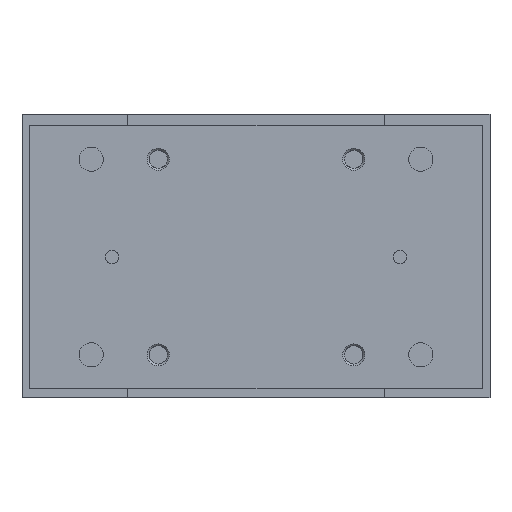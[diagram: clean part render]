
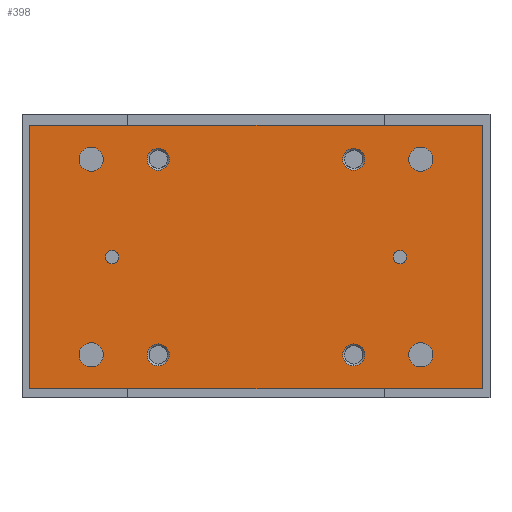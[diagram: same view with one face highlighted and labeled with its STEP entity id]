
A CAD part, left-side view. The second image highlights one B-rep face of the part: STEP entity #398.
In plain terms, the highlighted planar face has unit normal (-1, 0, 0).
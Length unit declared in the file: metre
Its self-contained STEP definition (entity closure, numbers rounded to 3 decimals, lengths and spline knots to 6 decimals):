
#398 = ADVANCED_FACE( '', ( #1066, #1067, #1068, #1069, #1070, #1071, #1072, #1073, #1074, #1075, #1076 ), #1077, .F. );
#1066 = FACE_BOUND( '', #2232, .T. );
#1067 = FACE_BOUND( '', #2233, .T. );
#1068 = FACE_BOUND( '', #2234, .T. );
#1069 = FACE_BOUND( '', #2235, .T. );
#1070 = FACE_BOUND( '', #2236, .T. );
#1071 = FACE_BOUND( '', #2237, .T. );
#1072 = FACE_BOUND( '', #2238, .T. );
#1073 = FACE_BOUND( '', #2239, .T. );
#1074 = FACE_BOUND( '', #2240, .T. );
#1075 = FACE_BOUND( '', #2241, .T. );
#1076 = FACE_OUTER_BOUND( '', #2242, .T. );
#1077 = PLANE( '', #2243 );
#2232 = EDGE_LOOP( '', ( #3510 ) );
#2233 = EDGE_LOOP( '', ( #3511 ) );
#2234 = EDGE_LOOP( '', ( #3512 ) );
#2235 = EDGE_LOOP( '', ( #3513 ) );
#2236 = EDGE_LOOP( '', ( #3514 ) );
#2237 = EDGE_LOOP( '', ( #3515 ) );
#2238 = EDGE_LOOP( '', ( #3516 ) );
#2239 = EDGE_LOOP( '', ( #3517 ) );
#2240 = EDGE_LOOP( '', ( #3518 ) );
#2241 = EDGE_LOOP( '', ( #3519 ) );
#2242 = EDGE_LOOP( '', ( #3520, #3521, #3522, #3523 ) );
#2243 = AXIS2_PLACEMENT_3D( '', #3524, #3525, #3526 );
#3510 = ORIENTED_EDGE( '', *, *, #5454, .T. );
#3511 = ORIENTED_EDGE( '', *, *, #5455, .F. );
#3512 = ORIENTED_EDGE( '', *, *, #5456, .F. );
#3513 = ORIENTED_EDGE( '', *, *, #5457, .T. );
#3514 = ORIENTED_EDGE( '', *, *, #5458, .F. );
#3515 = ORIENTED_EDGE( '', *, *, #5459, .T. );
#3516 = ORIENTED_EDGE( '', *, *, #5460, .T. );
#3517 = ORIENTED_EDGE( '', *, *, #5461, .F. );
#3518 = ORIENTED_EDGE( '', *, *, #5426, .F. );
#3519 = ORIENTED_EDGE( '', *, *, #5462, .T. );
#3520 = ORIENTED_EDGE( '', *, *, #5394, .T. );
#3521 = ORIENTED_EDGE( '', *, *, #5361, .T. );
#3522 = ORIENTED_EDGE( '', *, *, #5463, .T. );
#3523 = ORIENTED_EDGE( '', *, *, #5464, .T. );
#3524 = CARTESIAN_POINT( '', ( -0.1405, -0.103, -0.125 ) );
#3525 = DIRECTION( '', ( 1., 0., 0. ) );
#3526 = DIRECTION( '', ( 0., 0., -1. ) );
#5361 = EDGE_CURVE( '', #6137, #6135, #6138, .T. );
#5394 = EDGE_CURVE( '', #6192, #6137, #6193, .T. );
#5426 = EDGE_CURVE( '', #6245, #6245, #6246, .T. );
#5454 = EDGE_CURVE( '', #6293, #6293, #6294, .T. );
#5455 = EDGE_CURVE( '', #6295, #6295, #6296, .T. );
#5456 = EDGE_CURVE( '', #6297, #6297, #6298, .T. );
#5457 = EDGE_CURVE( '', #6299, #6299, #6300, .T. );
#5458 = EDGE_CURVE( '', #6301, #6301, #6302, .T. );
#5459 = EDGE_CURVE( '', #6303, #6303, #6304, .T. );
#5460 = EDGE_CURVE( '', #6305, #6305, #6306, .T. );
#5461 = EDGE_CURVE( '', #6307, #6307, #6308, .T. );
#5462 = EDGE_CURVE( '', #6309, #6309, #6310, .T. );
#5463 = EDGE_CURVE( '', #6135, #6311, #6312, .T. );
#5464 = EDGE_CURVE( '', #6311, #6192, #6313, .T. );
#6135 = VERTEX_POINT( '', #7241 );
#6137 = VERTEX_POINT( '', #7244 );
#6138 = LINE( '', #7245, #7246 );
#6192 = VERTEX_POINT( '', #7313 );
#6193 = LINE( '', #7314, #7315 );
#6245 = VERTEX_POINT( '', #7384 );
#6246 = CIRCLE( '', #7385, 0.0055 );
#6293 = VERTEX_POINT( '', #7447 );
#6294 = CIRCLE( '', #7448, 0.005 );
#6295 = VERTEX_POINT( '', #7449 );
#6296 = CIRCLE( '', #7450, 0.005 );
#6297 = VERTEX_POINT( '', #7451 );
#6298 = CIRCLE( '', #7452, 0.005 );
#6299 = VERTEX_POINT( '', #7453 );
#6300 = CIRCLE( '', #7454, 0.005 );
#6301 = VERTEX_POINT( '', #7455 );
#6302 = CIRCLE( '', #7456, 0.003 );
#6303 = VERTEX_POINT( '', #7457 );
#6304 = CIRCLE( '', #7458, 0.003 );
#6305 = VERTEX_POINT( '', #7459 );
#6306 = CIRCLE( '', #7460, 0.0055 );
#6307 = VERTEX_POINT( '', #7461 );
#6308 = CIRCLE( '', #7462, 0.0055 );
#6309 = VERTEX_POINT( '', #7463 );
#6310 = CIRCLE( '', #7464, 0.0055 );
#6311 = VERTEX_POINT( '', #7465 );
#6312 = LINE( '', #7466, #7467 );
#6313 = LINE( '', #7468, #7469 );
#7241 = CARTESIAN_POINT( '', ( -0.1405, 0.103, -0.005 ) );
#7244 = CARTESIAN_POINT( '', ( -0.1405, -0.103, -0.005 ) );
#7245 = CARTESIAN_POINT( '', ( -0.1405, -0.103, -0.005 ) );
#7246 = VECTOR( '', #8765, 1. );
#7313 = CARTESIAN_POINT( '', ( -0.1405, -0.103, -0.125 ) );
#7314 = CARTESIAN_POINT( '', ( -0.1405, -0.103, -0.125 ) );
#7315 = VECTOR( '', #8809, 1. );
#7384 = CARTESIAN_POINT( '', ( -0.1405, -0.0805, -0.0205 ) );
#7385 = AXIS2_PLACEMENT_3D( '', #8845, #8846, #8847 );
#7447 = CARTESIAN_POINT( '', ( -0.1405, -0.0395, -0.0205 ) );
#7448 = AXIS2_PLACEMENT_3D( '', #8878, #8879, #8880 );
#7449 = CARTESIAN_POINT( '', ( -0.1405, 0.0395, -0.0205 ) );
#7450 = AXIS2_PLACEMENT_3D( '', #8881, #8882, #8883 );
#7451 = CARTESIAN_POINT( '', ( -0.1405, -0.0395, -0.1095 ) );
#7452 = AXIS2_PLACEMENT_3D( '', #8884, #8885, #8886 );
#7453 = CARTESIAN_POINT( '', ( -0.1405, 0.0395, -0.1095 ) );
#7454 = AXIS2_PLACEMENT_3D( '', #8887, #8888, #8889 );
#7455 = CARTESIAN_POINT( '', ( -0.1405, -0.0625, -0.065 ) );
#7456 = AXIS2_PLACEMENT_3D( '', #8890, #8891, #8892 );
#7457 = CARTESIAN_POINT( '', ( -0.1405, 0.0625, -0.065 ) );
#7458 = AXIS2_PLACEMENT_3D( '', #8893, #8894, #8895 );
#7459 = CARTESIAN_POINT( '', ( -0.1405, -0.0805, -0.1095 ) );
#7460 = AXIS2_PLACEMENT_3D( '', #8896, #8897, #8898 );
#7461 = CARTESIAN_POINT( '', ( -0.1405, 0.0805, -0.1095 ) );
#7462 = AXIS2_PLACEMENT_3D( '', #8899, #8900, #8901 );
#7463 = CARTESIAN_POINT( '', ( -0.1405, 0.0805, -0.0205 ) );
#7464 = AXIS2_PLACEMENT_3D( '', #8902, #8903, #8904 );
#7465 = CARTESIAN_POINT( '', ( -0.1405, 0.103, -0.125 ) );
#7466 = CARTESIAN_POINT( '', ( -0.1405, 0.103, -0.005 ) );
#7467 = VECTOR( '', #8905, 1. );
#7468 = CARTESIAN_POINT( '', ( -0.1405, 0.103, -0.125 ) );
#7469 = VECTOR( '', #8906, 1. );
#8765 = DIRECTION( '', ( 0., 1., 0. ) );
#8809 = DIRECTION( '', ( 0., 0., 1. ) );
#8845 = CARTESIAN_POINT( '', ( -0.1405, -0.075, -0.0205 ) );
#8846 = DIRECTION( '', ( -1., 0., 0. ) );
#8847 = DIRECTION( '', ( 0., -1., 0. ) );
#8878 = CARTESIAN_POINT( '', ( -0.1405, -0.0445, -0.0205 ) );
#8879 = DIRECTION( '', ( 1., 0., 0. ) );
#8880 = DIRECTION( '', ( 0., 1., 0. ) );
#8881 = CARTESIAN_POINT( '', ( -0.1405, 0.0445, -0.0205 ) );
#8882 = DIRECTION( '', ( -1., 0., 0. ) );
#8883 = DIRECTION( '', ( 0., -1., 0. ) );
#8884 = CARTESIAN_POINT( '', ( -0.1405, -0.0445, -0.1095 ) );
#8885 = DIRECTION( '', ( -1., 0., 0. ) );
#8886 = DIRECTION( '', ( 0., 1., 0. ) );
#8887 = CARTESIAN_POINT( '', ( -0.1405, 0.0445, -0.1095 ) );
#8888 = DIRECTION( '', ( 1., 0., 0. ) );
#8889 = DIRECTION( '', ( 0., -1., 0. ) );
#8890 = CARTESIAN_POINT( '', ( -0.1405, -0.0655, -0.065 ) );
#8891 = DIRECTION( '', ( -1., 0., 0. ) );
#8892 = DIRECTION( '', ( 0., 1., 0. ) );
#8893 = CARTESIAN_POINT( '', ( -0.1405, 0.0655, -0.065 ) );
#8894 = DIRECTION( '', ( 1., 0., 0. ) );
#8895 = DIRECTION( '', ( 0., -1., 0. ) );
#8896 = CARTESIAN_POINT( '', ( -0.1405, -0.075, -0.1095 ) );
#8897 = DIRECTION( '', ( 1., 0., 0. ) );
#8898 = DIRECTION( '', ( 0., -1., 0. ) );
#8899 = CARTESIAN_POINT( '', ( -0.1405, 0.075, -0.1095 ) );
#8900 = DIRECTION( '', ( -1., 0., 0. ) );
#8901 = DIRECTION( '', ( 0., 1., 0. ) );
#8902 = CARTESIAN_POINT( '', ( -0.1405, 0.075, -0.0205 ) );
#8903 = DIRECTION( '', ( 1., 0., 0. ) );
#8904 = DIRECTION( '', ( 0., 1., 0. ) );
#8905 = DIRECTION( '', ( 0., 0., -1. ) );
#8906 = DIRECTION( '', ( 0., -1., 0. ) );
